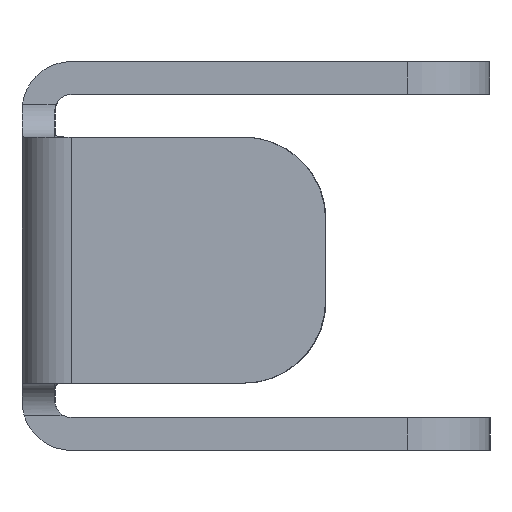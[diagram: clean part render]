
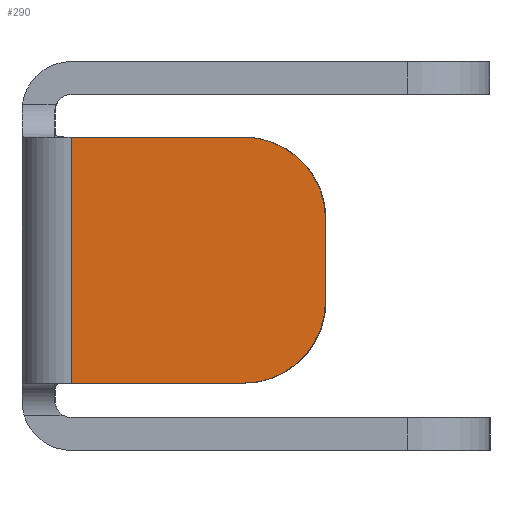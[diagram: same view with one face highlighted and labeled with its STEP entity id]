
A CAD part, front view. The second image highlights one B-rep face of the part: STEP entity #290.
In plain terms, the highlighted planar face has unit normal (0, -1, 0).
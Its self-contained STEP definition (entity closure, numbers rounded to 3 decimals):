
#227=AXIS2_PLACEMENT_3D('Circle Axis2P3D',#225,#226,$) ;
#247=AXIS2_PLACEMENT_3D('Plane Axis2P3D',#244,#245,#246) ;
#272=AXIS2_PLACEMENT_3D('Circle Axis2P3D',#270,#271,$) ;
#222=CARTESIAN_POINT('Vertex',(1051.125,-714.998,182.653)) ;
#225=CARTESIAN_POINT('Axis2P3D Location',(1051.125,-714.998,177.653)) ;
#229=CARTESIAN_POINT('Vertex',(1056.125,-714.999,177.653)) ;
#244=CARTESIAN_POINT('Axis2P3D Location',(1042.125,-714.997,167.653)) ;
#249=CARTESIAN_POINT('Line Origine',(1045.875,-714.997,182.653)) ;
#253=CARTESIAN_POINT('Vertex',(1040.625,-714.997,182.653)) ;
#256=CARTESIAN_POINT('Line Origine',(1040.625,-714.997,175.153)) ;
#260=CARTESIAN_POINT('Vertex',(1040.625,-714.997,167.653)) ;
#263=CARTESIAN_POINT('Line Origine',(1045.875,-714.997,167.653)) ;
#267=CARTESIAN_POINT('Vertex',(1051.125,-714.998,167.653)) ;
#270=CARTESIAN_POINT('Axis2P3D Location',(1051.125,-714.998,172.653)) ;
#274=CARTESIAN_POINT('Vertex',(1056.125,-714.999,172.653)) ;
#277=CARTESIAN_POINT('Line Origine',(1056.125,-714.999,175.153)) ;
#226=DIRECTION('Axis2P3D Direction',(0.,-1.,0.)) ;
#245=DIRECTION('Axis2P3D Direction',(0.,1.,0.)) ;
#246=DIRECTION('Axis2P3D XDirection',(0.,0.,1.)) ;
#250=DIRECTION('Vector Direction',(1.,0.,0.)) ;
#257=DIRECTION('Vector Direction',(0.,0.,1.)) ;
#264=DIRECTION('Vector Direction',(-1.,0.,0.)) ;
#271=DIRECTION('Axis2P3D Direction',(0.,1.,0.)) ;
#278=DIRECTION('Vector Direction',(0.,0.,-1.)) ;
#251=VECTOR('Line Direction',#250,1.) ;
#258=VECTOR('Line Direction',#257,1.) ;
#265=VECTOR('Line Direction',#264,1.) ;
#279=VECTOR('Line Direction',#278,1.) ;
#283=ORIENTED_EDGE('',*,*,#231,.F.) ;
#284=ORIENTED_EDGE('',*,*,#255,.F.) ;
#285=ORIENTED_EDGE('',*,*,#262,.F.) ;
#286=ORIENTED_EDGE('',*,*,#269,.F.) ;
#287=ORIENTED_EDGE('',*,*,#276,.F.) ;
#288=ORIENTED_EDGE('',*,*,#281,.F.) ;
#290=ADVANCED_FACE('\X2\51E04F554F53\X0\.5',(#289),#248,.F.) ;
#228=CIRCLE('generated circle',#227,5.) ;
#273=CIRCLE('generated circle',#272,5.) ;
#231=EDGE_CURVE('',#223,#230,#228,.F.) ;
#255=EDGE_CURVE('',#254,#223,#252,.T.) ;
#262=EDGE_CURVE('',#261,#254,#259,.T.) ;
#269=EDGE_CURVE('',#268,#261,#266,.T.) ;
#276=EDGE_CURVE('',#275,#268,#273,.T.) ;
#281=EDGE_CURVE('',#230,#275,#280,.T.) ;
#282=EDGE_LOOP('',(#283,#284,#285,#286,#287,#288)) ;
#289=FACE_OUTER_BOUND('',#282,.T.) ;
#252=LINE('Line',#249,#251) ;
#259=LINE('Line',#256,#258) ;
#266=LINE('Line',#263,#265) ;
#280=LINE('Line',#277,#279) ;
#248=PLANE('Plane',#247) ;
#223=VERTEX_POINT('',#222) ;
#230=VERTEX_POINT('',#229) ;
#254=VERTEX_POINT('',#253) ;
#261=VERTEX_POINT('',#260) ;
#268=VERTEX_POINT('',#267) ;
#275=VERTEX_POINT('',#274) ;
